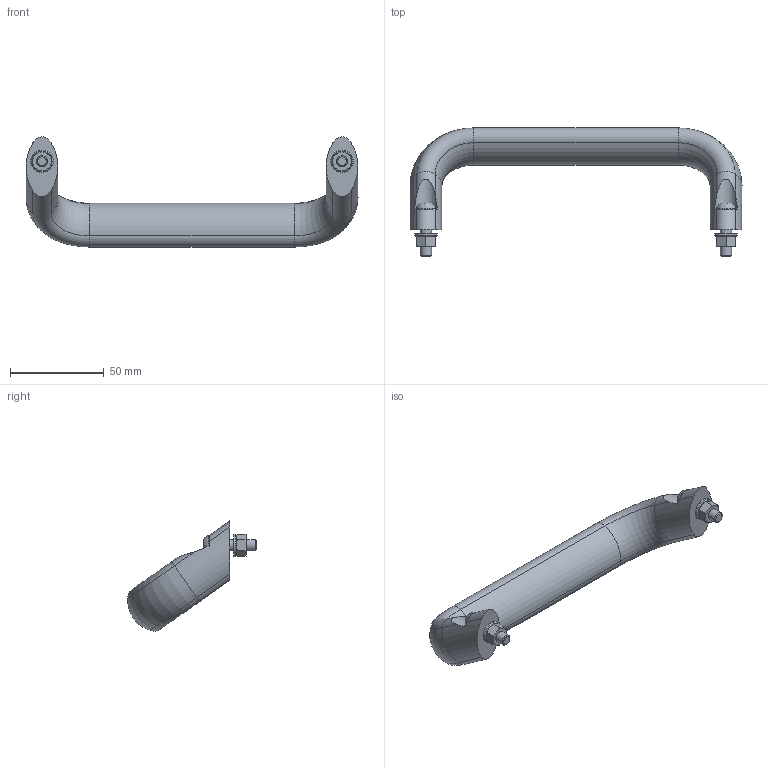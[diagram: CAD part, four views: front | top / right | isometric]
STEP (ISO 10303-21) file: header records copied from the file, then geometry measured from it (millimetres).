
FILE_DESCRIPTION( ( 'STEP AP203' ), '1' );
FILE_NAME( 'C:/Temp/Ganter_Step_05_03_2020/data/1_2/gn_565_2/Inclined cabinet „U“ handle GN 565.2-26-160-B-SR (4).stp', '2020-03-05T10:09:41', ( 'License CC BY-ND 4.0' ), ( 'CADENAS' ), ' ', 'PARTsolutions', ' ' );
FILE_SCHEMA( ( 'CONFIG_CONTROL_DESIGN' ) );
Length unit declared in the file: millimetre
Products named in the file (3): Inclined cabinet U handle GN 565.2-26-160-B-SR (4); _Schraeger Buegelgriff GN 565.2-26-160-B-SR-1; _Schraeger Buegelgriff GN 565.2-26-160-B-SR-2
Assembly tree (3 placements, depth 2):
  Inclined cabinet U handle GN 565.2-26-160-B-SR (4)
    _Schraeger Buegelgriff GN 565.2-26-160-B-SR-1
    _Schraeger Buegelgriff GN 565.2-26-160-B-SR-2  x2
Bounding box: 177 x 68.45 x 58.74 mm (x, y, z)
Volume: 84675.7 mm3; surface area: 20295.4 mm2
Topology: 3 solids, 3 shells, 120 faces, 254 edges, 150 vertices
Faces by surface type: plane 50, cone 32, cylinder 28, torus 8, bspline 2
Full cylindrical faces by diameter (mm): 4.917 x2, 6 x2, 6.4 x2, 6.5 x2, 10.5 x2, 12 x2
Entity records: 2662 total; most frequent: CARTESIAN_POINT 630, DIRECTION 428, ORIENTED_EDGE 358, AXIS2_PLACEMENT_3D 185, EDGE_CURVE 179, EDGE_LOOP 118, VERTEX_POINT 115, FACE_OUTER_BOUND 103
